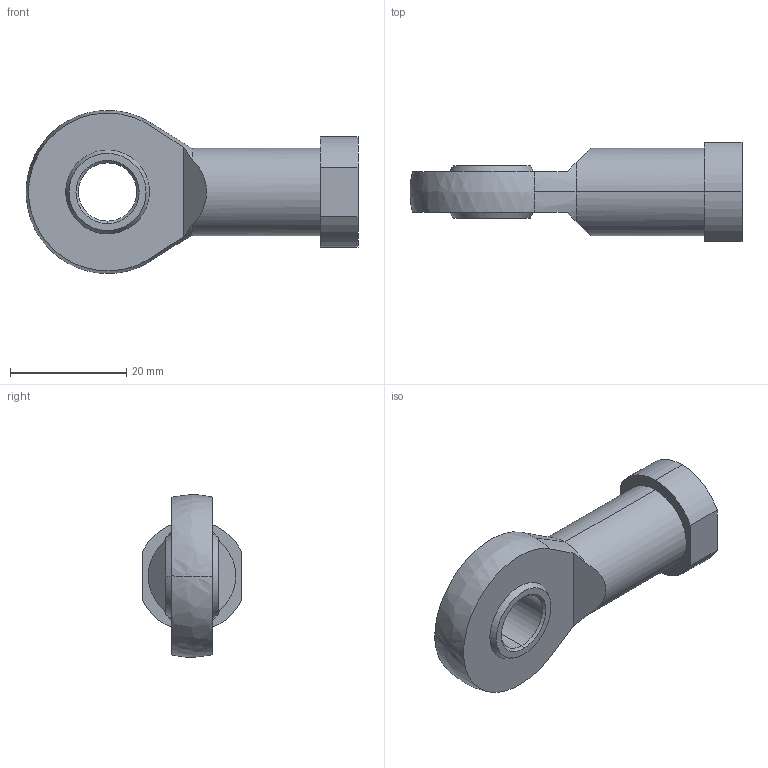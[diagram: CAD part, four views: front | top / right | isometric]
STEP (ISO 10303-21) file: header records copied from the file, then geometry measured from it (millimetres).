
FILE_DESCRIPTION (( 'STEP AP214' ), '1' );
FILE_NAME ('14.STK10SP.STEP', '2017-10-28T13:29:39', ( '' ), ( '' ), 'SwSTEP 2.0', 'SolidWorks 2016', '' );
FILE_SCHEMA (( 'AUTOMOTIVE_DESIGN' ));
Length unit declared in the file: millimetre
Products named in the file (1): 14.STK10SP
Bounding box: 57 x 17 x 27.99 mm (x, y, z)
Volume: 8385 mm3; surface area: 4309.9 mm2
Topology: 1 solids, 1 shells, 35 faces, 85 edges, 53 vertices
Faces by surface type: cone 11, plane 10, cylinder 9, bspline 5
Entity records: 1549 total; most frequent: CARTESIAN_POINT 747, ORIENTED_EDGE 162, DIRECTION 154, EDGE_CURVE 81, AXIS2_PLACEMENT_3D 64, VERTEX_POINT 53, EDGE_LOOP 42, FACE_OUTER_BOUND 35
